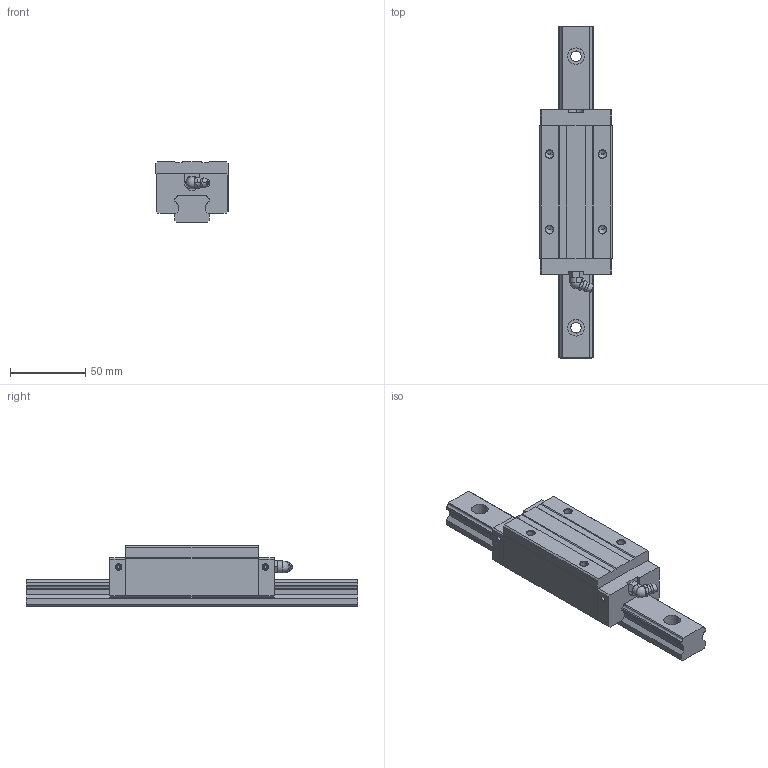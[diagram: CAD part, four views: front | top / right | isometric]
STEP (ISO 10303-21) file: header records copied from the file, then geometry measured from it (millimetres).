
FILE_DESCRIPTION((''),'1');
FILE_NAME(' ',' ',(''),(''),'ACIS Interop R16','Kubotek KeyCreator V6.5.2 (0407)',' ');
FILE_SCHEMA(('CONFIG_CONTROL_DESIGN'));
Length unit declared in the file: millimetre
Products named in the file (3): 1; 2; 3
Bounding box: 48 x 220 x 40 mm (x, y, z)
Volume: 141871.5 mm3; surface area: 43867.3 mm2
Topology: 2 solids, 48 shells, 220 faces, 703 edges, 539 vertices
Faces by surface type: plane 101, cylinder 78, cone 26, torus 10, sphere 3, bspline 2
Entity records: 8062 total; most frequent: CARTESIAN_POINT 1659, DIRECTION 1392, ORIENTED_EDGE 1126, EDGE_CURVE 693, VERTEX_POINT 539, AXIS2_PLACEMENT_3D 500, LINE 392, VECTOR 392
